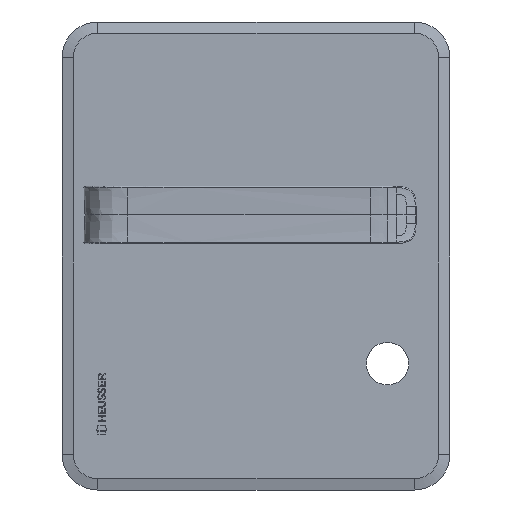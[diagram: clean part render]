
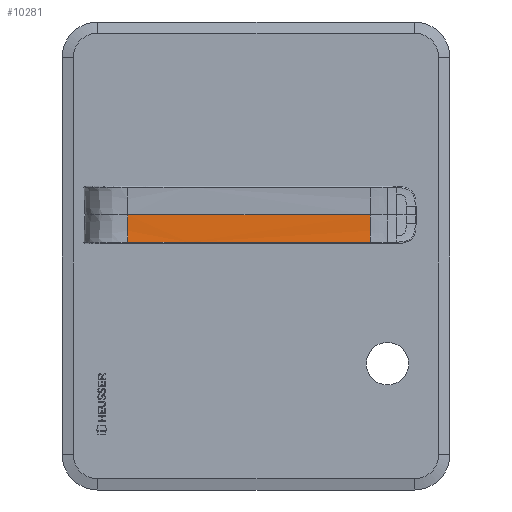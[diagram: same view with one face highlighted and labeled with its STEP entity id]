
A CAD part, top view. The second image highlights one B-rep face of the part: STEP entity #10281.
In plain terms, the highlighted free-form (B-spline) face has degree [1, 5] with [2, 6] control points.
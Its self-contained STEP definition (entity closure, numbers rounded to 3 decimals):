
#117=B_SPLINE_SURFACE_WITH_KNOTS('',1,5,((#15914,#15915,#15916,#15917,#15918,
#15919),(#15920,#15921,#15922,#15923,#15924,#15925)),.UNSPECIFIED.,.F.,
 .F.,.F.,(2,2),(6,6),(0.,1.),(0.,1.),.UNSPECIFIED.);
#369=B_SPLINE_CURVE_WITH_KNOTS('',5,(#15847,#15848,#15849,#15850,#15851,
#15852),.UNSPECIFIED.,.F.,.F.,(6,6),(0.,0.466),
 .UNSPECIFIED.);
#374=B_SPLINE_CURVE_WITH_KNOTS('',3,(#15928,#15929,#15930,#15931,#15932,
#15933,#15934,#15935,#15936,#15937),.UNSPECIFIED.,.F.,.F.,(4,3,3,4),(3.187,
8.761,12.402,12.747),.UNSPECIFIED.);
#375=B_SPLINE_CURVE_WITH_KNOTS('',5,(#15938,#15939,#15940,#15941,#15942,
#15943),.UNSPECIFIED.,.F.,.F.,(6,6),(0.,0.466),
 .UNSPECIFIED.);
#376=B_SPLINE_CURVE_WITH_KNOTS('',3,(#15944,#15945,#15946,#15947,#15948,
#15949,#15950,#15951,#15952,#15953,#15954,#15955,#15956,#15957,#15958,#15959,
#15960,#15961,#15962),.UNSPECIFIED.,.F.,.F.,(4,3,3,3,3,3,4),(0.,0.398,
0.557,0.796,0.913,1.195,3.187),
 .UNSPECIFIED.);
#1028=LINE('',#15913,#1882);
#1882=VECTOR('',#11925,10.);
#2753=FACE_OUTER_BOUND('',#3351,.T.);
#3351=EDGE_LOOP('',(#7329,#7330,#7331,#7332,#7333));
#4289=VERTEX_POINT('',#15634);
#4293=VERTEX_POINT('',#15779);
#4295=VERTEX_POINT('',#15873);
#4297=VERTEX_POINT('',#15926);
#4298=VERTEX_POINT('',#15927);
#5420=EDGE_CURVE('',#4293,#4289,#369,.T.);
#5425=EDGE_CURVE('',#4295,#4289,#1028,.T.);
#5426=EDGE_CURVE('',#4297,#4298,#374,.T.);
#5427=EDGE_CURVE('',#4298,#4295,#375,.T.);
#5428=EDGE_CURVE('',#4293,#4297,#376,.T.);
#7329=ORIENTED_EDGE('',*,*,#5426,.T.);
#7330=ORIENTED_EDGE('',*,*,#5427,.T.);
#7331=ORIENTED_EDGE('',*,*,#5425,.T.);
#7332=ORIENTED_EDGE('',*,*,#5420,.F.);
#7333=ORIENTED_EDGE('',*,*,#5428,.T.);
#10281=ADVANCED_FACE('',(#2753),#117,.F.);
#11925=DIRECTION('',(-1.,0.,-0.004));
#15634=CARTESIAN_POINT('',(-137.374,25.67,75.37));
#15779=CARTESIAN_POINT('',(-137.374,11.28,75.905));
#15847=CARTESIAN_POINT('Ctrl Pts',(-137.374,11.28,75.905));
#15848=CARTESIAN_POINT('Ctrl Pts',(-137.374,13.069,75.626));
#15849=CARTESIAN_POINT('Ctrl Pts',(-137.374,15.57,75.482));
#15850=CARTESIAN_POINT('Ctrl Pts',(-137.374,18.72,75.407));
#15851=CARTESIAN_POINT('Ctrl Pts',(-137.374,22.195,75.37));
#15852=CARTESIAN_POINT('Ctrl Pts',(-137.374,25.67,75.37));
#15873=CARTESIAN_POINT('',(-9.901,25.669,75.917));
#15913=CARTESIAN_POINT('',(-9.901,25.67,75.917));
#15914=CARTESIAN_POINT('Ctrl Pts',(-137.374,40.669,76.013));
#15915=CARTESIAN_POINT('Ctrl Pts',(-137.374,37.276,75.327));
#15916=CARTESIAN_POINT('Ctrl Pts',(-137.374,30.569,75.327));
#15917=CARTESIAN_POINT('Ctrl Pts',(-137.374,20.769,75.327));
#15918=CARTESIAN_POINT('Ctrl Pts',(-137.374,14.061,75.327));
#15919=CARTESIAN_POINT('Ctrl Pts',(-137.374,10.669,76.013));
#15920=CARTESIAN_POINT('Ctrl Pts',(-9.876,40.669,76.56));
#15921=CARTESIAN_POINT('Ctrl Pts',(-9.876,37.276,75.874));
#15922=CARTESIAN_POINT('Ctrl Pts',(-9.876,30.569,75.874));
#15923=CARTESIAN_POINT('Ctrl Pts',(-9.876,20.769,75.874));
#15924=CARTESIAN_POINT('Ctrl Pts',(-9.876,14.061,75.874));
#15925=CARTESIAN_POINT('Ctrl Pts',(-9.876,10.669,76.56));
#15926=CARTESIAN_POINT('',(-105.507,11.28,76.041));
#15927=CARTESIAN_POINT('',(-9.901,11.28,76.451));
#15928=CARTESIAN_POINT('Ctrl Pts',(-105.507,11.28,76.041));
#15929=CARTESIAN_POINT('Ctrl Pts',(-86.928,11.28,76.121));
#15930=CARTESIAN_POINT('Ctrl Pts',(-68.333,11.28,76.201));
#15931=CARTESIAN_POINT('Ctrl Pts',(-49.759,11.28,76.28));
#15932=CARTESIAN_POINT('Ctrl Pts',(-37.624,11.28,76.332));
#15933=CARTESIAN_POINT('Ctrl Pts',(-25.49,11.28,76.383));
#15934=CARTESIAN_POINT('Ctrl Pts',(-13.356,11.28,76.437));
#15935=CARTESIAN_POINT('Ctrl Pts',(-12.204,11.28,76.442));
#15936=CARTESIAN_POINT('Ctrl Pts',(-11.053,11.28,76.447));
#15937=CARTESIAN_POINT('Ctrl Pts',(-9.901,11.28,76.451));
#15938=CARTESIAN_POINT('Ctrl Pts',(-9.901,11.28,76.451));
#15939=CARTESIAN_POINT('Ctrl Pts',(-9.901,13.069,76.173));
#15940=CARTESIAN_POINT('Ctrl Pts',(-9.901,15.57,76.028));
#15941=CARTESIAN_POINT('Ctrl Pts',(-9.901,18.72,75.954));
#15942=CARTESIAN_POINT('Ctrl Pts',(-9.901,22.194,75.917));
#15943=CARTESIAN_POINT('Ctrl Pts',(-9.901,25.669,75.917));
#15944=CARTESIAN_POINT('Ctrl Pts',(-137.374,11.28,75.905));
#15945=CARTESIAN_POINT('Ctrl Pts',(-136.046,11.28,75.91));
#15946=CARTESIAN_POINT('Ctrl Pts',(-134.718,11.28,75.916));
#15947=CARTESIAN_POINT('Ctrl Pts',(-133.39,11.28,75.922));
#15948=CARTESIAN_POINT('Ctrl Pts',(-132.841,11.28,75.924));
#15949=CARTESIAN_POINT('Ctrl Pts',(-132.291,11.28,75.926));
#15950=CARTESIAN_POINT('Ctrl Pts',(-131.742,11.28,75.929));
#15951=CARTESIAN_POINT('Ctrl Pts',(-130.965,11.28,75.932));
#15952=CARTESIAN_POINT('Ctrl Pts',(-130.188,11.28,75.935));
#15953=CARTESIAN_POINT('Ctrl Pts',(-129.411,11.28,75.939));
#15954=CARTESIAN_POINT('Ctrl Pts',(-129.,11.28,75.941));
#15955=CARTESIAN_POINT('Ctrl Pts',(-128.588,11.28,75.942));
#15956=CARTESIAN_POINT('Ctrl Pts',(-128.177,11.28,75.944));
#15957=CARTESIAN_POINT('Ctrl Pts',(-127.26,11.28,75.948));
#15958=CARTESIAN_POINT('Ctrl Pts',(-126.343,11.28,75.952));
#15959=CARTESIAN_POINT('Ctrl Pts',(-125.426,11.28,75.956));
#15960=CARTESIAN_POINT('Ctrl Pts',(-118.786,11.28,75.984));
#15961=CARTESIAN_POINT('Ctrl Pts',(-112.146,11.28,76.013));
#15962=CARTESIAN_POINT('Ctrl Pts',(-105.507,11.28,76.041));
